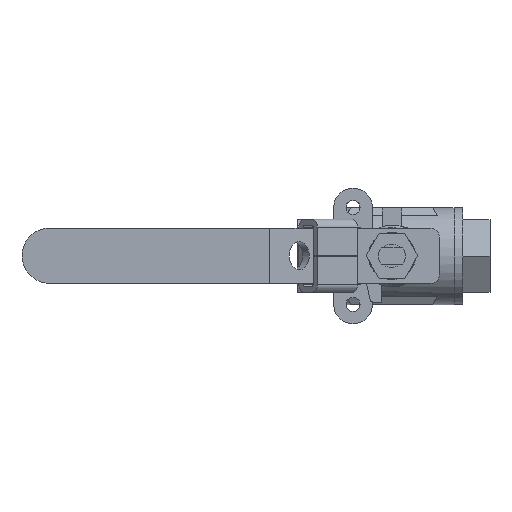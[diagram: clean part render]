
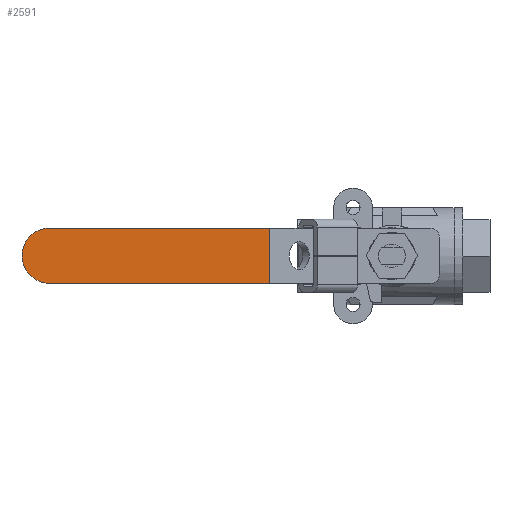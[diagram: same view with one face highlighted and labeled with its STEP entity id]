
A CAD part, top view. The second image highlights one B-rep face of the part: STEP entity #2591.
In plain terms, the highlighted planar face has unit normal (0, 0, 1).
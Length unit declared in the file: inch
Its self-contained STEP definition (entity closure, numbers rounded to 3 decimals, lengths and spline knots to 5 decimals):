
#2423=CARTESIAN_POINT('',(-2.832,-1.67193,1.1234));
#2424=VERTEX_POINT('',#2423);
#2431=CARTESIAN_POINT('',(-2.832,-1.04193,1.1234));
#2432=VERTEX_POINT('',#2431);
#2433=CARTESIAN_POINT('',(-2.832,-1.35693,1.1234));
#2434=DIRECTION('',(0.0,0.0,1.0));
#2435=DIRECTION('',(-1.0,0.0,0.0));
#2436=AXIS2_PLACEMENT_3D('',#2433,#2434,#2435);
#2437=CIRCLE('',#2436,0.315);
#2438=EDGE_CURVE('',#2432,#2424,#2437,.T.);
#2495=CARTESIAN_POINT('',(-0.32434,-1.67193,1.1234));
#2496=VERTEX_POINT('',#2495);
#2503=CARTESIAN_POINT('',(-2.832,-1.67193,1.1234));
#2504=DIRECTION('',(1.0,0.0,0.0));
#2505=VECTOR('',#2504,2.50766);
#2506=LINE('',#2503,#2505);
#2507=EDGE_CURVE('',#2424,#2496,#2506,.T.);
#2518=CARTESIAN_POINT('',(-0.32434,-1.04193,1.1234));
#2519=VERTEX_POINT('',#2518);
#2520=CARTESIAN_POINT('',(-0.32434,-1.04193,1.1234));
#2521=DIRECTION('',(-1.0,0.0,0.0));
#2522=VECTOR('',#2521,2.50766);
#2523=LINE('',#2520,#2522);
#2524=EDGE_CURVE('',#2519,#2432,#2523,.T.);
#2575=CARTESIAN_POINT('',(-0.32434,-1.67193,1.1234));
#2576=DIRECTION('',(0.0,0.0,1.0));
#2577=DIRECTION('',(1.0,0.0,0.0));
#2578=AXIS2_PLACEMENT_3D('',#2575,#2576,#2577);
#2579=PLANE('',#2578);
#2580=ORIENTED_EDGE('',*,*,#2438,.T.);
#2581=ORIENTED_EDGE('',*,*,#2507,.T.);
#2582=CARTESIAN_POINT('',(-0.32434,-1.67193,1.1234));
#2583=DIRECTION('',(0.0,1.0,0.0));
#2584=VECTOR('',#2583,0.63);
#2585=LINE('',#2582,#2584);
#2586=EDGE_CURVE('',#2496,#2519,#2585,.T.);
#2587=ORIENTED_EDGE('',*,*,#2586,.T.);
#2588=ORIENTED_EDGE('',*,*,#2524,.T.);
#2589=EDGE_LOOP('',(#2580,#2581,#2587,#2588));
#2590=FACE_OUTER_BOUND('',#2589,.T.);
#2591=ADVANCED_FACE('',(#2590),#2579,.T.);
